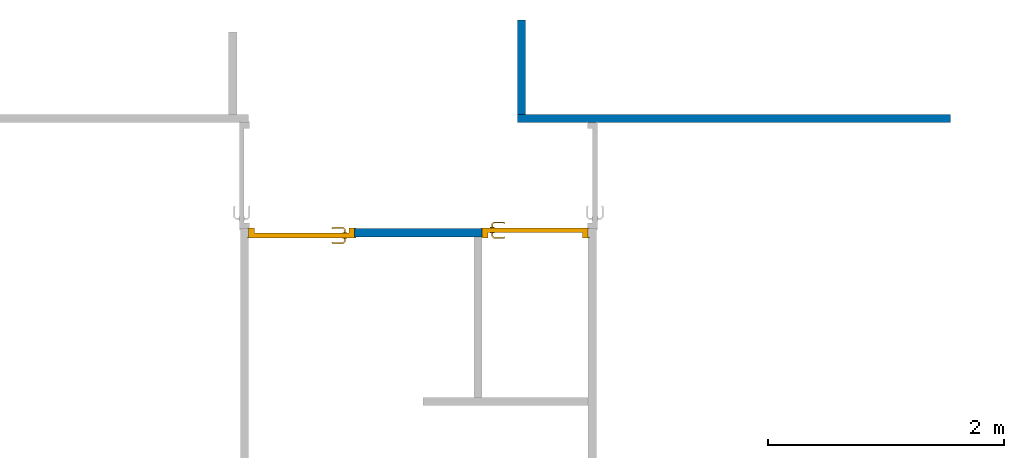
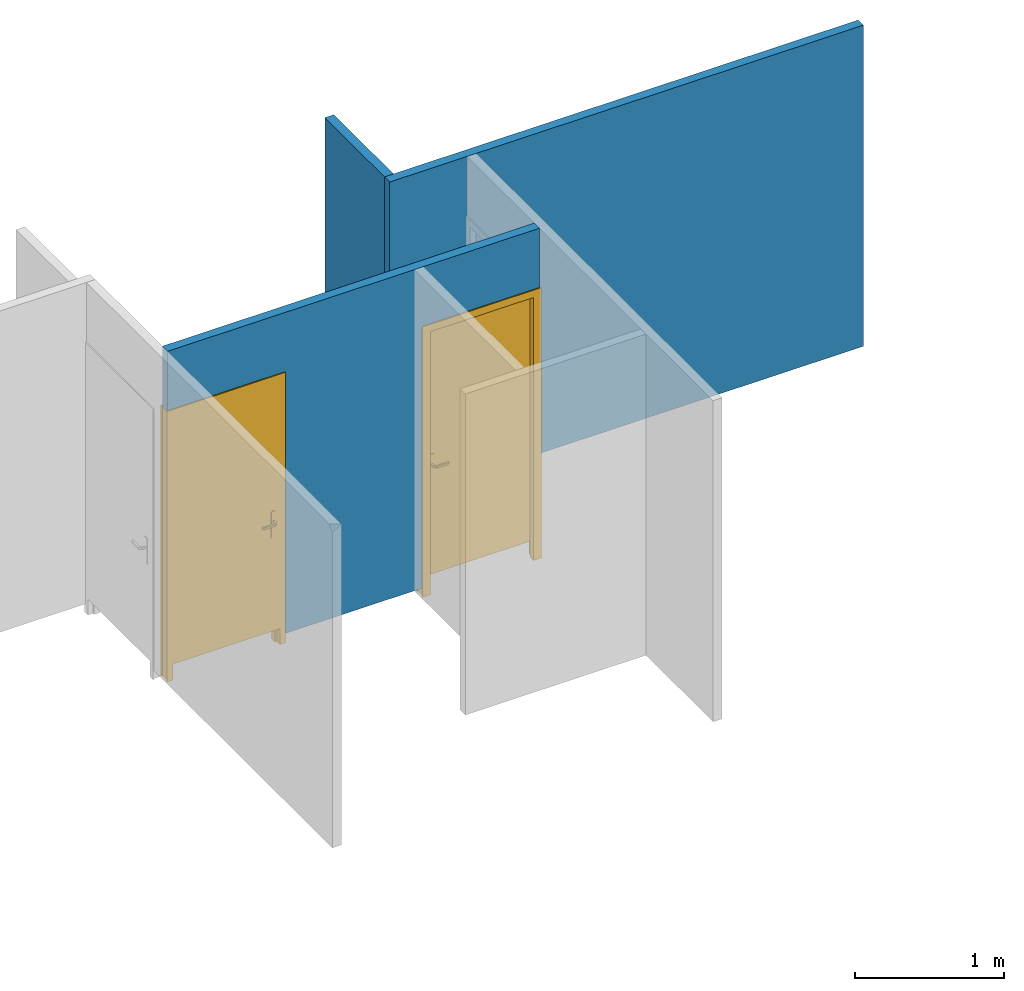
"""IFC2X3 building model written with IfcOpenShell, lengths in metres."""

from ifc_helpers import new_model, entity, si_unit, converted_unit, derived_unit, direction, frame, frame_2d, origin, place, context, subcontext, project, spatial, rectangle, extrude, faceted_brep, source, transform, mapped, material, material_list, layer, layer_set, layer_usage, type_object, type_shapes, element, fill, save


model = new_model("IFC2X3")

# Units and contexts
model_context = context("Model", 3, precision=1e-05, world=origin(), true_north=direction((6.123031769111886e-17, 1.0)))
body_context = subcontext(model_context, "Body", "Model", "MODEL_VIEW")
ifc_project = project(units=[si_unit("LENGTHUNIT", "METRE"), si_unit("AREAUNIT", "SQUARE_METRE"), si_unit("VOLUMEUNIT", "CUBIC_METRE"), converted_unit("PLANEANGLEUNIT", "DEGREE", entity("IfcRatioMeasure", 0.017453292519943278), si_unit("PLANEANGLEUNIT", "RADIAN"), dimensions=[0, 0, 0, 0, 0, 0, 0]), si_unit("MASSUNIT", "GRAM", prefix="KILO"), derived_unit("MASSDENSITYUNIT", [(si_unit("MASSUNIT", "GRAM", prefix="KILO"), 1), (si_unit("LENGTHUNIT", "METRE"), -3)]), derived_unit("IONCONCENTRATIONUNIT", [(si_unit("MASSUNIT", "GRAM", prefix="KILO"), 1), (si_unit("LENGTHUNIT", "METRE"), -3)]), derived_unit("MOMENTOFINERTIAUNIT", [(si_unit("LENGTHUNIT", "METRE"), 4)]), si_unit("TIMEUNIT", "SECOND"), si_unit("FREQUENCYUNIT", "HERTZ"), si_unit("THERMODYNAMICTEMPERATUREUNIT", "DEGREE_CELSIUS"), derived_unit("THERMALTRANSMITTANCEUNIT", [(si_unit("MASSUNIT", "GRAM", prefix="KILO"), 1), (si_unit("THERMODYNAMICTEMPERATUREUNIT", "KELVIN"), -1), (si_unit("TIMEUNIT", "SECOND"), -3)]), derived_unit("THERMALCONDUCTANCEUNIT", [(si_unit("MASSUNIT", "GRAM", prefix="KILO"), 1), (si_unit("THERMODYNAMICTEMPERATUREUNIT", "KELVIN"), -1), (si_unit("TIMEUNIT", "SECOND"), -3), (si_unit("LENGTHUNIT", "METRE"), 1)]), derived_unit("VOLUMETRICFLOWRATEUNIT", [(si_unit("LENGTHUNIT", "METRE"), 3), (si_unit("TIMEUNIT", "SECOND"), -1)]), derived_unit("MASSFLOWRATEUNIT", [(si_unit("MASSUNIT", "GRAM", prefix="KILO"), 1), (si_unit("TIMEUNIT", "SECOND"), -1)]), derived_unit("ROTATIONALFREQUENCYUNIT", [(si_unit("TIMEUNIT", "SECOND"), -1)]), si_unit("ELECTRICCURRENTUNIT", "AMPERE"), si_unit("ELECTRICVOLTAGEUNIT", "VOLT"), si_unit("POWERUNIT", "WATT"), si_unit("FORCEUNIT", "NEWTON", prefix="KILO"), si_unit("ILLUMINANCEUNIT", "LUX"), si_unit("LUMINOUSFLUXUNIT", "LUMEN"), si_unit("LUMINOUSINTENSITYUNIT", "CANDELA"), derived_unit("USERDEFINED", [(si_unit("MASSUNIT", "GRAM", prefix="KILO"), -1), (si_unit("LENGTHUNIT", "METRE"), -2), (si_unit("TIMEUNIT", "SECOND"), 3), (si_unit("LUMINOUSFLUXUNIT", "LUMEN"), 1)]), derived_unit("USERDEFINED", [(si_unit("MASSUNIT", "GRAM", prefix="KILO"), 1), (si_unit("TIMEUNIT", "SECOND"), -3), (si_unit("LENGTHUNIT", "METRE"), 3), (si_unit("ELECTRICCURRENTUNIT", "AMPERE"), -2)]), derived_unit("SOUNDPOWERUNIT", [(si_unit("MASSUNIT", "GRAM", prefix="KILO"), 1), (si_unit("TIMEUNIT", "SECOND"), -3), (si_unit("LENGTHUNIT", "METRE"), 2)]), derived_unit("SOUNDPRESSUREUNIT", [(si_unit("MASSUNIT", "GRAM", prefix="KILO"), 1), (si_unit("LENGTHUNIT", "METRE"), -1), (si_unit("TIMEUNIT", "SECOND"), -2)]), derived_unit("LINEARVELOCITYUNIT", [(si_unit("LENGTHUNIT", "METRE"), 1), (si_unit("TIMEUNIT", "SECOND"), -1)]), si_unit("PRESSUREUNIT", "PASCAL"), derived_unit("USERDEFINED", [(si_unit("MASSUNIT", "GRAM", prefix="KILO"), 1), (si_unit("LENGTHUNIT", "METRE"), -2), (si_unit("TIMEUNIT", "SECOND"), -2)]), derived_unit("LINEARFORCEUNIT", [(si_unit("MASSUNIT", "GRAM", prefix="KILO"), 1), (si_unit("TIMEUNIT", "SECOND"), -2)]), derived_unit("PLANARFORCEUNIT", [(si_unit("MASSUNIT", "GRAM", prefix="KILO"), 1), (si_unit("LENGTHUNIT", "METRE"), -1), (si_unit("TIMEUNIT", "SECOND"), -2)]), derived_unit("SPECIFICHEATCAPACITYUNIT", [(si_unit("THERMODYNAMICTEMPERATUREUNIT", "KELVIN"), -1), (si_unit("LENGTHUNIT", "METRE"), 2), (si_unit("TIMEUNIT", "SECOND"), -2)]), derived_unit("HEATINGVALUEUNIT", [(si_unit("LENGTHUNIT", "METRE"), 2), (si_unit("TIMEUNIT", "SECOND"), -2)]), derived_unit("VAPORPERMEABILITYUNIT", [(si_unit("LENGTHUNIT", "METRE"), -1), (si_unit("TIMEUNIT", "SECOND"), 1)]), derived_unit("DYNAMICVISCOSITYUNIT", [(si_unit("MASSUNIT", "GRAM", prefix="KILO"), 1), (si_unit("TIMEUNIT", "SECOND"), -1), (si_unit("LENGTHUNIT", "METRE"), -1)]), derived_unit("THERMALEXPANSIONCOEFFICIENTUNIT", [(si_unit("THERMODYNAMICTEMPERATUREUNIT", "KELVIN"), -1)]), derived_unit("MODULUSOFELASTICITYUNIT", [(si_unit("MASSUNIT", "GRAM", prefix="KILO"), 1), (si_unit("LENGTHUNIT", "METRE"), -1), (si_unit("TIMEUNIT", "SECOND"), -2)]), derived_unit("ISOTHERMALMOISTURECAPACITYUNIT", [(si_unit("LENGTHUNIT", "METRE"), 3), (si_unit("MASSUNIT", "GRAM", prefix="KILO"), -1)]), derived_unit("MOISTUREDIFFUSIVITYUNIT", [(si_unit("TIMEUNIT", "SECOND"), -1), (si_unit("LENGTHUNIT", "METRE"), 2)])], contexts=[model_context])

# Site, building, storey
site_placement = place(None, frame((1.2553507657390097, -0.6266432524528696, -1.0397761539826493), z_axis=(0.0, 0.0, 1.0), x_axis=(-1.0, 0.0, 0.0)))
site = spatial("IfcSite", under=ifc_project, at=site_placement, Name="Default", CompositionType="ELEMENT")
building_placement = place(site_placement, origin())
building = spatial("IfcBuilding", under=site, at=building_placement, Name="MAISON D'HABITATION", CompositionType="ELEMENT")
storey_1_placement = place(building_placement, frame((0.0, 0.0, 0.9097761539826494)))
storey_1 = spatial("IfcBuildingStorey", under=building, at=storey_1_placement, Name="Niveau Dalle ↑", CompositionType="ELEMENT", Elevation=0.9097761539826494)

# Wall, openings
ifc_material_1 = material(Name="Peinture")
ifc_layer_1 = layer(ifc_material_1, 0.007)
ifc_material_2 = material(Name="Plaque de mur de gypse")
ifc_layer_2 = layer(ifc_material_2, 0.013)
ifc_material_3 = material(Name="Isolation")
ifc_layer_3 = layer(ifc_material_3, 0.03)
ifc_layer_4 = layer(ifc_material_2, 0.013)
ifc_layer_5 = layer(ifc_material_1, 0.007)
ifc_layer_set = layer_set([ifc_layer_1, ifc_layer_2, ifc_layer_3, ifc_layer_4, ifc_layer_5], Name="Mur de base:mur interieur 7 cm")
ifc_layer_usage = layer_usage(ifc_layer_set, "AXIS2", "NEGATIVE", 0.034999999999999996)
wall_type = type_object("IfcWallType", Name="Mur de base:mur interieur 7 cm", PredefinedType="STANDARD", material=ifc_layer_set)
wall_1_placement = place(storey_1_placement, frame((1.4101330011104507, 0.6311830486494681, 0.0), z_axis=(0.0, 0.0, 1.0), x_axis=(-1.0, 0.0, 0.0)))
wall_1 = element("IfcWallStandardCase", 1, at=wall_1_placement, inside=storey_1, type_object=wall_type, material=ifc_layer_usage, Name="Mur de base:mur interieur 7 cm", ObjectType="Mur de base:mur interieur 7 cm", context=body_context, shape_type="SweptSolid", body=[
    extrude(rectangle(XDim=2.8799999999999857, YDim=0.07000000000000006, at=frame_2d((1.4399999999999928, 3.8163916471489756e-17), x_axis=(-1.0, 0.0))), origin(), (0.0, 0.0, 1.0), 2.63),
])
opening_1_placement = place(wall_1_placement, frame((1.979999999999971, -0.03500000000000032, -0.08999999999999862)))
opening_1 = element("IfcOpeningElement", 2, at=opening_1_placement, cuts=wall_1, Name="porte intérieur Simple reservation 13 cm:80 x 204:1", ObjectType="Opening", context=body_context, shape_type="SweptSolid", body=[
    extrude(rectangle(XDim=2.224999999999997, YDim=0.8999999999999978, at=frame_2d((1.1124999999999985, 0.4499999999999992), x_axis=(1.0, 0.0))), frame((0.0, 0.0, 0.0), z_axis=(0.0, 1.0, 0.0), x_axis=(0.0, 0.0, 1.0)), (0.0, 0.0, 1.0), 0.06999999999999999),
])
opening_2_placement = place(wall_1_placement, frame((0.8999999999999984, 0.03500000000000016, -0.08999999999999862)))
opening_2 = element("IfcOpeningElement", 3, at=opening_2_placement, cuts=wall_1, Name="porte intérieur Simple reservation 13 cm:80 x 204:1", ObjectType="Opening", context=body_context, shape_type="SweptSolid", body=[
    extrude(rectangle(XDim=2.224999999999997, YDim=0.8999999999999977, at=frame_2d((1.1124999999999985, 0.44999999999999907), x_axis=(1.0, 0.0))), frame((0.0, 0.0, 0.0), z_axis=(0.0, -1.0, 0.0), x_axis=(0.0, 0.0, 1.0)), (0.0, 0.0, 1.0), 0.06999999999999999),
])

# Storey
storey_2_placement = place(building_placement, frame((0.0, 0.0, 1.0397761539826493)))
storey_2 = spatial("IfcBuildingStorey", under=building, at=storey_2_placement, Name="site", CompositionType="ELEMENT", Elevation=1.0397761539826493)

# Door
ifc_material_4 = material(Name="Poignée Porte")
ifc_material_5 = material(Name="Dormants Portes")
ifc_material_6 = material(Name="Panneaux Portes")
ifc_material_list = material_list([ifc_material_4, ifc_material_5, ifc_material_6])
door_style = type_object("IfcDoorStyle", Name="porte intérieur Simple reservation 13 cm:80 x 204", ConstructionType="NOTDEFINED", OperationType="NOTDEFINED", ParameterTakesPrecedence=False, Sizeable=False, material=ifc_material_list)
shared_shape = source(origin(), body_context, "Body", "Brep", [
    faceted_brep([(0.8129747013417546, 0.03700000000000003, 1.0422195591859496), (0.8170252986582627, 0.03700000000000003, 1.0422195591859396), (0.8210000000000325, 0.03700000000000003, 1.0429999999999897), (0.8210000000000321, 0.03700000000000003, 1.0569999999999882), (0.8170252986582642, 0.03700000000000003, 1.0577804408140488), (0.812974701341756, 0.03700000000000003, 1.0577804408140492), (0.8089999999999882, 0.03700000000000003, 1.0569999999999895), (0.8089999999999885, 0.03700000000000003, 1.0430000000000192), (0.8089999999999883, 0.059485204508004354, 1.0569999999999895), (0.8089999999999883, 0.05948520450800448, 1.0430000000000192), (0.8129747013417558, 0.061131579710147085, 1.0577804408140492), (0.8170252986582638, 0.06280939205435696, 1.0577804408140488), (0.80083890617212, 0.07899578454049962, 1.0577804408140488), (0.7991610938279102, 0.0749451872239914, 1.0577804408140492), (0.7157931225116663, 0.07494518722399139, 1.0577804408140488), (0.7141153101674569, 0.07899578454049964, 1.0577804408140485), (0.7064510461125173, 0.07133152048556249, 1.0577804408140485), (0.7093152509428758, 0.06846731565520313, 1.0577804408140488), (0.8210000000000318, 0.0644557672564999, 1.0569999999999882), (0.8210000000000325, 0.06445576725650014, 1.0429999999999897), (0.8170252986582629, 0.06280939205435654, 1.0422195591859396), (0.8129747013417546, 0.06113157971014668, 1.0422195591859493), (0.7991610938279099, 0.07494518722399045, 1.0422195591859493), (0.8008389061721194, 0.0789957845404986, 1.0422195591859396), (0.7141153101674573, 0.07899578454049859, 1.0422195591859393), (0.7157931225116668, 0.07494518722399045, 1.042219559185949), (0.7093152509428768, 0.06846731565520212, 1.0422195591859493), (0.7064510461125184, 0.07133152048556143, 1.0422195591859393), (0.7975147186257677, 0.070970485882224, 1.0430000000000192), (0.7975147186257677, 0.07097048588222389, 1.0569999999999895), (0.8024852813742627, 0.0829704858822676, 1.0569999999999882), (0.8024852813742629, 0.0829704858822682, 1.0429999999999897), (0.7574771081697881, 0.07097048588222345, 1.056999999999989), (0.7174394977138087, 0.07097048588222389, 1.056999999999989), (0.7174394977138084, 0.07097048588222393, 1.0430000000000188), (0.7574770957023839, 0.07097048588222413, 1.043000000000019), (0.7574771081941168, 0.07712492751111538, 1.0578781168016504), (0.7523994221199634, 0.08297048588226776, 1.0569999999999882), (0.7124689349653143, 0.0829704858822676, 1.056999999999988), (0.7625547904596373, 0.0829704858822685, 1.0429999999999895), (0.712468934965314, 0.0829704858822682, 1.0429999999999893), (0.7574771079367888, 0.07712492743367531, 1.0421218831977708), (0.703640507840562, 0.07414205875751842, 1.0569999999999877), (0.7036405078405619, 0.07414205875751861, 1.0429999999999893), (0.7121257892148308, 0.06565677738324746, 1.0430000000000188), (0.712125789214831, 0.06565677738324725, 1.056999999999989)], [[[0, 1, 2, 3, 4, 5, 6, 7]], [[8, 9, 7, 6]], [[5, 10, 8, 6]], [[5, 4, 11, 12, 13, 10]], [[14, 15, 16, 17]], [[3, 18, 11, 4]], [[18, 3, 2, 19]], [[2, 1, 20, 19]], [[1, 0, 21, 22, 23, 20]], [[24, 25, 26, 27]], [[0, 7, 9, 21]], [[28, 9, 8, 29]], [[8, 10, 13, 29]], [[18, 30, 12, 11]], [[31, 30, 18, 19]], [[19, 20, 23, 31]], [[21, 9, 28, 22]], [[28, 29, 32, 33, 34, 35]], [[36, 32, 13]], [[37, 38, 15]], [[37, 12, 30]], [[36, 12, 37]], [[14, 32, 36]], [[36, 15, 14]], [[29, 13, 32]], [[32, 14, 33]], [[12, 36, 13]], [[15, 36, 37]], [[30, 31, 39, 40, 38, 37]], [[23, 41, 39]], [[24, 39, 41]], [[39, 31, 23]], [[39, 24, 40]], [[22, 35, 41]], [[41, 23, 22]], [[41, 35, 25]], [[35, 22, 28]], [[34, 25, 35]], [[24, 41, 25]], [[17, 16, 42, 43, 27, 26, 44, 45]], [[44, 34, 33, 45]], [[33, 14, 17, 45]], [[15, 38, 42, 16]], [[43, 42, 38, 40]], [[24, 27, 43, 40]], [[34, 44, 26, 25]]]),
    faceted_brep([(0.8129747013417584, -0.012999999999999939, 1.057780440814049), (0.8170252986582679, -0.012999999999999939, 1.0577804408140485), (0.8210000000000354, -0.012999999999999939, 1.0569999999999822), (0.8210000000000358, -0.012999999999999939, 1.0429999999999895), (0.8170252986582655, -0.012999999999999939, 1.0422195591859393), (0.8129747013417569, -0.012999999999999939, 1.0422195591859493), (0.8089999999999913, -0.012999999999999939, 1.0430000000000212), (0.8089999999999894, -0.012999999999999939, 1.0569999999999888), (0.8170252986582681, -0.03900457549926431, 1.0577804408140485), (0.821000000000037, -0.040650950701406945, 1.0569999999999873), (0.8129747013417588, -0.037326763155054, 1.057780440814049), (0.7992986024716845, -0.05100286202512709, 1.057780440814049), (0.8009764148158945, -0.05505345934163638, 1.0577804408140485), (0.7141424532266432, -0.05505345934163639, 1.0577804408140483), (0.7158202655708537, -0.05100286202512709, 1.0577804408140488), (0.7093423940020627, -0.04452499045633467, 1.0577804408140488), (0.7064781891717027, -0.04738919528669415, 1.0577804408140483), (0.8089999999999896, -0.03568038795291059, 1.0569999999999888), (0.8089999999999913, -0.035680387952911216, 1.0430000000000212), (0.8129747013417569, -0.03732676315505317, 1.0422195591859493), (0.8170252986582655, -0.0390045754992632, 1.0422195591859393), (0.8009764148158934, -0.05505345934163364, 1.0422195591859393), (0.7992986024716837, -0.051002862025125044, 1.0422195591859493), (0.7158202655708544, -0.051002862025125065, 1.042219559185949), (0.7141424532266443, -0.05505345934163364, 1.0422195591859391), (0.7064781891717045, -0.047389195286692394, 1.0422195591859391), (0.7093423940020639, -0.0445249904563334, 1.042219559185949), (0.8210000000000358, -0.0406509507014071, 1.0429999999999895), (0.8026227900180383, -0.059028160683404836, 1.0569999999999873), (0.7976522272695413, -0.04702816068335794, 1.0569999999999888), (0.797652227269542, -0.047028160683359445, 1.0430000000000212), (0.8026227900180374, -0.059028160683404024, 1.0429999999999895), (0.7575594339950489, -0.05318280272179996, 1.0578781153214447), (0.76269230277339, -0.059028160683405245, 1.0569999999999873), (0.7124960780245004, -0.059028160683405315, 1.056999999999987), (0.7575594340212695, -0.04702816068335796, 1.0569999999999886), (0.717466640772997, -0.04702816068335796, 1.0569999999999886), (0.7575594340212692, -0.04702816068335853, 1.0430000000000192), (0.7174666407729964, -0.047028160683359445, 1.043000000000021), (0.7575594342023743, -0.05318280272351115, 1.0421218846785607), (0.7524265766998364, -0.05902816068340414, 1.0429999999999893), (0.7124960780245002, -0.059028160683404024, 1.0429999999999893), (0.7121529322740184, -0.04171445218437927, 1.043000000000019), (0.7036676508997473, -0.05019973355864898, 1.0429999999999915), (0.7036676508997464, -0.05019973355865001, 1.0569999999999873), (0.7121529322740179, -0.04171445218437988, 1.0569999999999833)], [[[0, 1, 2, 3, 4, 5, 6, 7]], [[2, 1, 8, 9]], [[1, 0, 10, 11, 12, 8]], [[13, 14, 15, 16]], [[0, 7, 17, 10]], [[18, 17, 7, 6]], [[5, 19, 18, 6]], [[5, 4, 20, 21, 22, 19]], [[23, 24, 25, 26]], [[3, 27, 20, 4]], [[9, 27, 3, 2]], [[9, 8, 12, 28]], [[10, 17, 29, 11]], [[30, 29, 17, 18]], [[18, 19, 22, 30]], [[20, 27, 31, 21]], [[28, 31, 27, 9]], [[12, 32, 33]], [[13, 33, 32]], [[33, 28, 12]], [[33, 13, 34]], [[11, 35, 32]], [[32, 12, 11]], [[32, 35, 14]], [[35, 11, 29]], [[36, 14, 35]], [[13, 32, 14]], [[30, 37, 38, 36, 35, 29]], [[39, 37, 22]], [[40, 41, 24]], [[40, 21, 31]], [[39, 21, 40]], [[23, 37, 39]], [[39, 24, 23]], [[30, 22, 37]], [[37, 23, 38]], [[21, 39, 22]], [[24, 39, 40]], [[31, 28, 33, 34, 41, 40]], [[42, 26, 25, 43, 44, 16, 15, 45]], [[13, 16, 44, 34]], [[36, 45, 15, 14]], [[42, 45, 36, 38]], [[38, 23, 26, 42]], [[24, 41, 43, 25]], [[44, 43, 41, 34]]]),
    faceted_brep([(0.835000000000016, 0.03199999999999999, 0.9200000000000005), (0.8350000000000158, 0.03199999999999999, 1.1299999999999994), (0.8253527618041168, 0.03199999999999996, 1.1339960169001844), (0.8150000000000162, 0.031999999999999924, 1.1353589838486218), (0.8046472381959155, 0.03199999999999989, 1.1339960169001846), (0.7950000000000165, 0.031999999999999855, 1.1299999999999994), (0.7950000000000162, 0.031999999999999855, 0.9199999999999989), (0.8046472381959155, 0.03199999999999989, 0.9160039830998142), (0.8150000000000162, 0.031999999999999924, 0.9146410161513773), (0.8253527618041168, 0.03199999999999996, 0.9160039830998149), (0.8150000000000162, 0.03699999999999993, 1.1353589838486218), (0.8253527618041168, 0.03699999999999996, 1.1339960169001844), (0.8350000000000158, 0.03699999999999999, 1.1299999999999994), (0.8350000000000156, 0.03699999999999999, 0.9200000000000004), (0.8253527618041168, 0.03699999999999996, 0.9160039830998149), (0.8150000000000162, 0.03699999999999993, 0.9146410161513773), (0.8046472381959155, 0.036999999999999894, 0.9160039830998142), (0.7950000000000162, 0.03699999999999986, 0.9199999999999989), (0.7950000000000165, 0.03699999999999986, 1.1299999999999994), (0.8046472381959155, 0.036999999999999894, 1.1339960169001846)], [[[0, 1, 2, 3, 4, 5, 6, 7, 8, 9]], [[10, 11, 12, 13, 14, 15, 16, 17, 18, 19]], [[4, 19, 18, 5]], [[3, 10, 19, 4]], [[2, 11, 10, 3]], [[2, 1, 12, 11]], [[12, 1, 0, 13]], [[9, 14, 13, 0]], [[8, 15, 14, 9]], [[7, 16, 15, 8]], [[7, 6, 17, 16]], [[17, 6, 5, 18]]]),
    faceted_brep([(0.8150000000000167, -0.013000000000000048, 0.9146410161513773), (0.8253527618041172, -0.013000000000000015, 0.916003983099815), (0.8350000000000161, -0.01299999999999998, 0.9200000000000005), (0.835000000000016, -0.01299999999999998, 1.1299999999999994), (0.8253527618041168, -0.013000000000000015, 1.1339960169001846), (0.8150000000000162, -0.013000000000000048, 1.1353589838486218), (0.8046472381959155, -0.013000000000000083, 1.1339960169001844), (0.7950000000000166, -0.013000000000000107, 1.1299999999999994), (0.7950000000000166, -0.013000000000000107, 0.9199999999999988), (0.8046472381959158, -0.013000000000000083, 0.916003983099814), (0.835000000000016, -0.007999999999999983, 1.1299999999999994), (0.8350000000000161, -0.007999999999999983, 0.9200000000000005), (0.8253527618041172, -0.008000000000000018, 0.916003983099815), (0.8150000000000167, -0.00800000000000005, 0.9146410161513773), (0.8046472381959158, -0.008000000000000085, 0.916003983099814), (0.7950000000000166, -0.00800000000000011, 0.9199999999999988), (0.7950000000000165, -0.00800000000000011, 1.1299999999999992), (0.8046472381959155, -0.008000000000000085, 1.1339960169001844), (0.8150000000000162, -0.00800000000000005, 1.1353589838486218), (0.8253527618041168, -0.008000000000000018, 1.1339960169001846)], [[[0, 1, 2, 3, 4, 5, 6, 7, 8, 9]], [[10, 11, 12, 13, 14, 15, 16, 17, 18, 19]], [[1, 12, 11, 2]], [[0, 13, 12, 1]], [[9, 14, 13, 0]], [[9, 8, 15, 14]], [[15, 8, 7, 16]], [[6, 17, 16, 7]], [[5, 18, 17, 6]], [[4, 19, 18, 5]], [[4, 3, 10, 19]], [[10, 3, 2, 11]]]),
    faceted_brep([(0.9000000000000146, 0.0, 0.01999999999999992), (0.9100000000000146, 0.0, 0.01999999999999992), (0.9100000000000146, -0.007999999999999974, 0.01999999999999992), (0.8650000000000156, -0.007999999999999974, 0.01999999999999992), (0.8650000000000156, 0.03200000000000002, 0.01999999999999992), (0.8500000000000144, 0.03200000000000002, 0.01999999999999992), (0.8500000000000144, 0.07799999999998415, 0.01999999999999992), (0.9100000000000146, 0.07799999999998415, 0.01999999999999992), (0.9100000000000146, 0.06999999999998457, 0.01999999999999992), (0.9000000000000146, 0.06999999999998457, 0.01999999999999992), (0.9000000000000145, 0.06999999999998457, 2.224999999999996), (0.9000000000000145, 0.0, 2.224999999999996), (0.9100000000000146, 0.06999999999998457, 2.2349999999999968), (-0.009999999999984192, 0.06999999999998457, 2.2349999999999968), (-0.009999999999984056, 0.06999999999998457, 0.01999999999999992), (0.0, 0.06999999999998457, 0.01999999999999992), (0.0, 0.06999999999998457, 2.224999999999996), (0.9100000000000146, 0.07799999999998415, 2.2349999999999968), (0.8500000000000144, 0.07799999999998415, 2.1749999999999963), (0.050000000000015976, 0.07799999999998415, 2.1749999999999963), (0.050000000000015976, 0.07799999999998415, 0.01999999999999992), (-0.009999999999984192, 0.07799999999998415, 0.01999999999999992), (-0.009999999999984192, 0.07799999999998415, 2.2349999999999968), (0.8500000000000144, 0.03200000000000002, 2.1749999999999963), (0.8650000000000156, 0.03200000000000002, 2.1899999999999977), (0.03500000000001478, 0.03200000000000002, 2.1899999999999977), (0.03500000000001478, 0.03200000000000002, 0.01999999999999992), (0.050000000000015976, 0.03200000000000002, 0.01999999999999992), (0.050000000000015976, 0.03200000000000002, 2.1749999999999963), (0.8650000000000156, -0.007999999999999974, 2.1899999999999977), (0.9100000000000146, -0.007999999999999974, 2.2349999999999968), (-0.009999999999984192, -0.007999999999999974, 2.2349999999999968), (-0.009999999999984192, -0.007999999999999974, 0.01999999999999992), (0.03500000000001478, -0.007999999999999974, 0.01999999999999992), (0.03500000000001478, -0.007999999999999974, 2.1899999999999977), (0.9100000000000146, 0.0, 2.2349999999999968), (0.0, 0.0, 2.2249999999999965), (0.0, 0.0, 0.01999999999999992), (-0.009999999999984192, 0.0, 0.01999999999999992), (-0.009999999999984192, 0.0, 2.2349999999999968)], [[[0, 1, 2, 3, 4, 5, 6, 7, 8, 9]], [[9, 10, 11, 0]], [[8, 12, 13, 14, 15, 16, 10, 9]], [[7, 17, 12, 8]], [[6, 18, 19, 20, 21, 22, 17, 7]], [[5, 23, 18, 6]], [[4, 24, 25, 26, 27, 28, 23, 5]], [[3, 29, 24, 4]], [[2, 30, 31, 32, 33, 34, 29, 3]], [[1, 35, 30, 2]], [[0, 11, 36, 37, 38, 39, 35, 1]], [[16, 15, 37, 36]], [[37, 15, 14, 21, 20, 27, 26, 33, 32, 38]], [[22, 21, 14, 13]], [[28, 27, 20, 19]], [[34, 33, 26, 25]], [[39, 38, 32, 31]], [[10, 16, 36, 11]], [[17, 22, 13, 12]], [[23, 28, 19, 18]], [[29, 34, 25, 24]], [[35, 39, 31, 30]]]),
    faceted_brep([(0.03500000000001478, -0.007999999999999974, 2.1899999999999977), (0.03500000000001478, -0.007999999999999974, 0.14999999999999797), (0.8650000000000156, -0.007999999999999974, 0.14999999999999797), (0.8650000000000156, -0.007999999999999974, 2.1899999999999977), (0.03500000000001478, 0.03200000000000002, 2.1899999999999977), (0.8650000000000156, 0.03200000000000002, 2.1899999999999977), (0.8650000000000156, 0.03200000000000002, 0.14999999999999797), (0.03500000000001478, 0.03200000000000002, 0.14999999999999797)], [[[0, 1, 2, 3]], [[4, 5, 6, 7]], [[3, 5, 4, 0]], [[2, 6, 5, 3]], [[1, 7, 6, 2]], [[0, 4, 7, 1]]]),
])
type_shapes(door_style, [shared_shape])
door_1_placement = place(opening_1_placement, frame((0.900000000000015, 0.06999999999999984, 0.0), z_axis=(0.0, 0.0, 1.0), x_axis=(-1.0, 0.0, 0.0)))
door_1 = element("IfcDoor", 4, at=door_1_placement, inside=storey_2, type_object=door_style, material=ifc_material_list, Name="porte intérieur Simple reservation 13 cm:80 x 204", ObjectType="porte intérieur Simple reservation 13 cm:80 x 204", OverallHeight=2.224999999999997, OverallWidth=0.8999999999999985, context=body_context, shape_type="MappedRepresentation", body=[
    mapped(shared_shape, transform((0.0, 0.0, 0.0), scale=1.0)),
])

fill(opening_1, door_1)

door_2_placement = place(opening_2_placement, frame((-0.9000000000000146, -0.07000000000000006, 0.0)))
door_2 = element("IfcDoor", 5, at=door_2_placement, inside=storey_2, type_object=door_style, material=ifc_material_list, Name="porte intérieur Simple reservation 13 cm:80 x 204", ObjectType="porte intérieur Simple reservation 13 cm:80 x 204", OverallHeight=2.224999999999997, OverallWidth=0.8999999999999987, context=body_context, shape_type="MappedRepresentation", body=[
    mapped(shared_shape, transform((0.0, 0.0, 0.0), scale=1.0)),
])

fill(opening_2, door_2)

# Wall, opening
wall_2_placement = place(storey_1_placement, frame((-0.8698669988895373, -0.33881695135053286, 0.0), z_axis=(0.0, 0.0, 1.0), x_axis=(-1.0, 0.0, 0.0)))
wall_2 = element("IfcWallStandardCase", 6, at=wall_2_placement, inside=storey_1, type_object=wall_type, material=ifc_layer_usage, Name="Mur de base:mur interieur 7 cm", ObjectType="Mur de base:mur interieur 7 cm", context=body_context, shape_type="SweptSolid", body=[
    extrude(rectangle(XDim=3.6699999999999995, YDim=0.06999999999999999, at=frame_2d((1.835, -3.122502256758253e-17), x_axis=(-1.0, 0.0))), origin(), (0.0, 0.0, 1.0), 2.6299999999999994),
])
opening_3_placement = place(wall_2_placement, origin())
element("IfcOpeningElement", 7, at=opening_3_placement, cuts=wall_2, Name="Mur de base:mur interieur 7 cm", ObjectType="Opening", context=body_context, shape_type="SweptSolid", body=[
    extrude(rectangle(XDim=2.224999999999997, YDim=0.07000000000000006, at=frame_2d((1.3530843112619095e-16, 3.3306690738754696e-16), x_axis=(0.0, 1.0))), frame((0.6349999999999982, -0.9349999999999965, 1.0224999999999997), z_axis=(0.0, 1.0, 0.0), x_axis=(-1.0, 0.0, 0.0)), (0.0, 0.0, 1.0), 0.8999999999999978),
])

# Wall
wall_3_placement = place(storey_1_placement, frame((-0.9048669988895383, -1.1738169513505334, 0.0), z_axis=(0.0, 0.0, 1.0), x_axis=(0.0, 1.0, 0.0)))
element("IfcWallStandardCase", 8, at=wall_3_placement, inside=storey_1, type_object=wall_type, material=ifc_layer_usage, Name="Mur de base:mur interieur 7 cm", ObjectType="Mur de base:mur interieur 7 cm", context=body_context, shape_type="SweptSolid", body=[
    extrude(rectangle(XDim=0.8000000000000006, YDim=0.07000000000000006, at=frame_2d((0.4000000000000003, 0.0), x_axis=(-1.0, 0.0))), origin(), (0.0, 0.0, 1.0), 2.6299999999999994),
])

save(model, "model.ifc")
